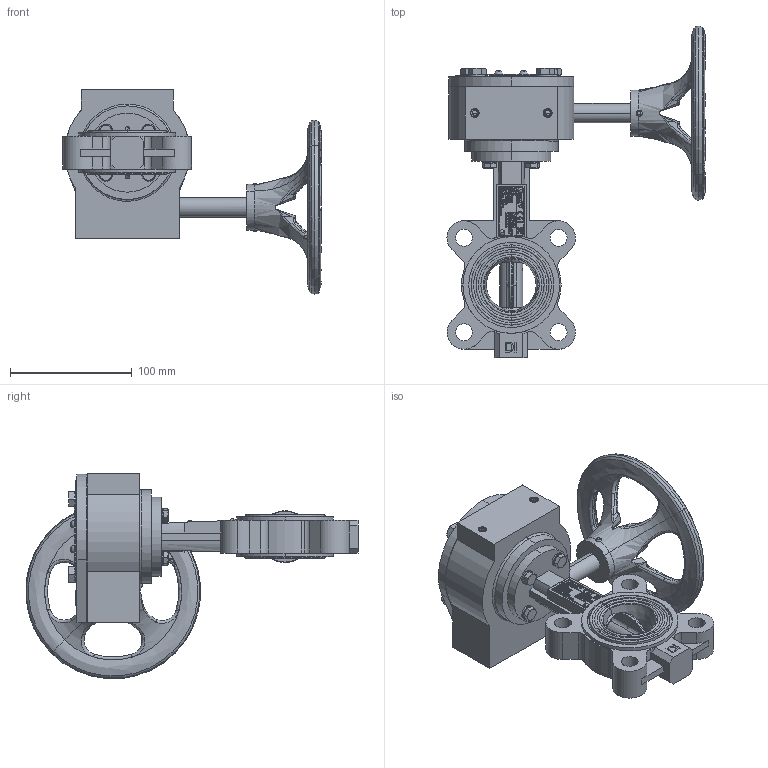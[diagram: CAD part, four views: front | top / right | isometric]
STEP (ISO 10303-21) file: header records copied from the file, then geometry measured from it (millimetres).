
FILE_DESCRIPTION (( 'STEP AP214' ), '1' );
FILE_NAME ('VPG464X-08XX0040.step', '2022-06-30T08:14:43', ( '' ), ( '' ), 'SwSTEP 2.0', 'SolidWorks 2020', '' );
FILE_SCHEMA (( 'AUTOMOTIVE_DESIGN' ));
Length unit declared in the file: millimetre
Products named in the file (1): VPG464X-08XX0040
Bounding box: 212.34 x 273.23 x 168.73 mm (x, y, z)
Surface area: 157704.2 mm2 (no closed solid volume)
Topology: 0 solids, 73 shells, 967 faces, 5954 edges, 4942 vertices
Faces by surface type: plane 529, bspline 191, cylinder 155, cone 88, torus 4
Entity records: 89692 total; most frequent: CARTESIAN_POINT 37952, ORIENTED_EDGE 7956, DIRECTION 6687, EDGE_CURVE 5939, VERTEX_POINT 4942, LINE 3735, VECTOR 3735, AXIS2_PLACEMENT_3D 1476
